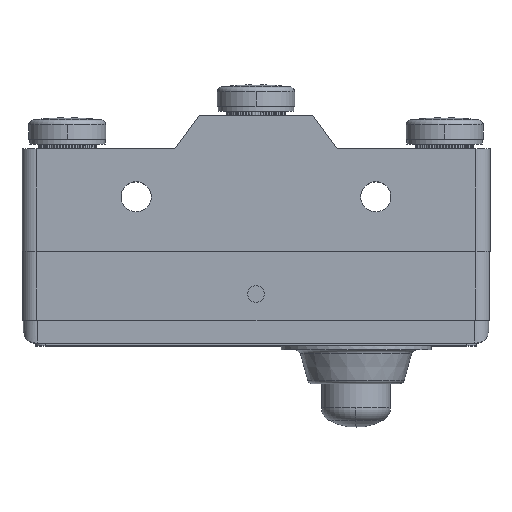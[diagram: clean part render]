
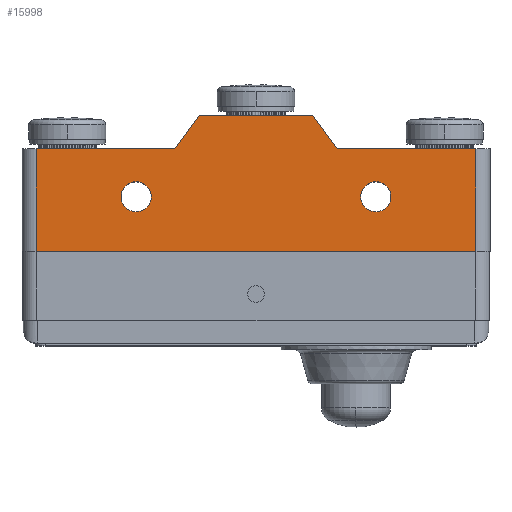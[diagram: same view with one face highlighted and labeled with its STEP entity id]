
A CAD part, top view. The second image highlights one B-rep face of the part: STEP entity #15998.
In plain terms, the highlighted planar face has unit normal (0, 0, 1).
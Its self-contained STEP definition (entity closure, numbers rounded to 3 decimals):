
#3578=DIRECTION('',(-1.,0.,0.));
#3579=VECTOR('',#3578,373.38);
#3580=CARTESIAN_POINT('',(1217.93,749.453,3.81));
#3581=LINE('',#3580,#3579);
#4495=DIRECTION('',(0.,1.,0.));
#4496=VECTOR('',#4495,276.86);
#4497=CARTESIAN_POINT('',(1217.93,472.593,3.81));
#4498=LINE('',#4497,#4496);
#4615=DIRECTION('',(0.,1.,0.));
#4616=VECTOR('',#4615,276.86);
#4617=CARTESIAN_POINT('',(34.29,472.593,3.81));
#4618=LINE('',#4617,#4616);
#4619=DIRECTION('',(1.,0.,0.));
#4620=VECTOR('',#4619,373.38);
#4621=CARTESIAN_POINT('',(34.29,749.453,3.81));
#4622=LINE('',#4621,#4620);
#4623=DIRECTION('',(0.596,0.803,0.));
#4624=VECTOR('',#4623,110.745);
#4625=CARTESIAN_POINT('',(407.67,749.453,3.81));
#4626=LINE('',#4625,#4624);
#4627=DIRECTION('',(0.596,-0.803,0.));
#4628=VECTOR('',#4627,110.745);
#4629=CARTESIAN_POINT('',(778.51,838.353,3.81));
#4630=LINE('',#4629,#4628);
#4631=DIRECTION('',(-1.,0.,0.));
#4632=VECTOR('',#4631,1183.64);
#4633=CARTESIAN_POINT('',(1217.93,472.593,3.81));
#4634=LINE('',#4633,#4632);
#4635=CARTESIAN_POINT('',(303.53,619.913,3.81));
#4636=DIRECTION('',(0.,0.,1.));
#4637=DIRECTION('',(1.,0.,0.));
#4638=AXIS2_PLACEMENT_3D('',#4635,#4636,#4637);
#4640=CARTESIAN_POINT('',(303.53,619.913,3.81));
#4641=DIRECTION('',(0.,0.,1.));
#4642=DIRECTION('',(-1.,0.,0.));
#4643=AXIS2_PLACEMENT_3D('',#4640,#4641,#4642);
#4645=CARTESIAN_POINT('',(948.69,619.913,3.81));
#4646=DIRECTION('',(0.,0.,1.));
#4647=DIRECTION('',(1.,0.,0.));
#4648=AXIS2_PLACEMENT_3D('',#4645,#4646,#4647);
#4650=CARTESIAN_POINT('',(948.69,619.913,3.81));
#4651=DIRECTION('',(0.,0.,1.));
#4652=DIRECTION('',(-1.,0.,0.));
#4653=AXIS2_PLACEMENT_3D('',#4650,#4651,#4652);
#5577=DIRECTION('',(-1.,0.,0.));
#5578=VECTOR('',#5577,304.8);
#5579=CARTESIAN_POINT('',(778.51,838.353,3.81));
#5580=LINE('',#5579,#5578);
#12655=CARTESIAN_POINT('',(34.29,749.453,3.81));
#12656=CARTESIAN_POINT('',(407.67,749.453,3.81));
#12657=VERTEX_POINT('',#12655);
#12658=VERTEX_POINT('',#12656);
#12799=CARTESIAN_POINT('',(34.29,472.593,3.81));
#12801=VERTEX_POINT('',#12799);
#12802=CARTESIAN_POINT('',(1217.93,472.593,3.81));
#12804=VERTEX_POINT('',#12802);
#12828=CARTESIAN_POINT('',(473.71,838.353,3.81));
#12829=VERTEX_POINT('',#12828);
#12830=CARTESIAN_POINT('',(778.51,838.353,3.81));
#12831=CARTESIAN_POINT('',(844.55,749.453,3.81));
#12832=VERTEX_POINT('',#12830);
#12833=VERTEX_POINT('',#12831);
#12834=CARTESIAN_POINT('',(1217.93,749.453,3.81));
#12835=VERTEX_POINT('',#12834);
#12836=CARTESIAN_POINT('',(344.17,619.913,3.81));
#12837=CARTESIAN_POINT('',(262.89,619.913,3.81));
#12838=VERTEX_POINT('',#12836);
#12839=VERTEX_POINT('',#12837);
#12840=CARTESIAN_POINT('',(989.33,619.913,3.81));
#12841=CARTESIAN_POINT('',(908.05,619.913,3.81));
#12842=VERTEX_POINT('',#12840);
#12843=VERTEX_POINT('',#12841);
#15968=CARTESIAN_POINT('',(626.11,655.473,3.81));
#15969=DIRECTION('',(0.,0.,1.));
#15970=DIRECTION('',(1.,0.,0.));
#15971=AXIS2_PLACEMENT_3D('',#15968,#15969,#15970);
#15972=PLANE('',#15971);
#15973=ORIENTED_EDGE('',*,*,#15863,.T.);
#15975=ORIENTED_EDGE('',*,*,#15974,.T.);
#15977=ORIENTED_EDGE('',*,*,#15976,.T.);
#15979=ORIENTED_EDGE('',*,*,#15978,.F.);
#15980=ORIENTED_EDGE('',*,*,#15961,.T.);
#15981=ORIENTED_EDGE('',*,*,#15558,.F.);
#15982=ORIENTED_EDGE('',*,*,#15804,.F.);
#15983=ORIENTED_EDGE('',*,*,#15819,.T.);
#15984=EDGE_LOOP('',(#15973,#15975,#15977,#15979,#15980,#15981,#15982,#15983));
#15985=FACE_OUTER_BOUND('',#15984,.F.);
#15987=ORIENTED_EDGE('',*,*,#15986,.T.);
#15989=ORIENTED_EDGE('',*,*,#15988,.T.);
#15990=EDGE_LOOP('',(#15987,#15989));
#15991=FACE_BOUND('',#15990,.F.);
#15993=ORIENTED_EDGE('',*,*,#15992,.T.);
#15995=ORIENTED_EDGE('',*,*,#15994,.T.);
#15996=EDGE_LOOP('',(#15993,#15995));
#15997=FACE_BOUND('',#15996,.F.);
#15998=ADVANCED_FACE('',(#15985,#15991,#15997),#15972,.T.);
#4639=CIRCLE('',#4638,40.64);
#4644=CIRCLE('',#4643,40.64);
#4649=CIRCLE('',#4648,40.64);
#4654=CIRCLE('',#4653,40.64);
#15558=EDGE_CURVE('',#12835,#12833,#3581,.T.);
#15804=EDGE_CURVE('',#12804,#12835,#4498,.T.);
#15819=EDGE_CURVE('',#12804,#12801,#4634,.T.);
#15863=EDGE_CURVE('',#12801,#12657,#4618,.T.);
#15961=EDGE_CURVE('',#12832,#12833,#4630,.T.);
#15974=EDGE_CURVE('',#12657,#12658,#4622,.T.);
#15976=EDGE_CURVE('',#12658,#12829,#4626,.T.);
#15978=EDGE_CURVE('',#12832,#12829,#5580,.T.);
#15986=EDGE_CURVE('',#12838,#12839,#4639,.T.);
#15988=EDGE_CURVE('',#12839,#12838,#4644,.T.);
#15992=EDGE_CURVE('',#12842,#12843,#4649,.T.);
#15994=EDGE_CURVE('',#12843,#12842,#4654,.T.);
